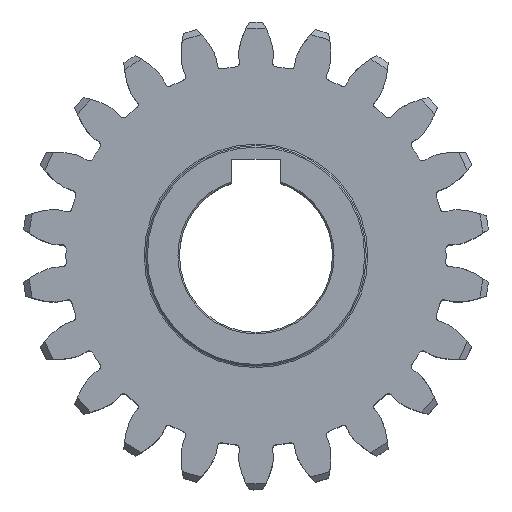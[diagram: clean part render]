
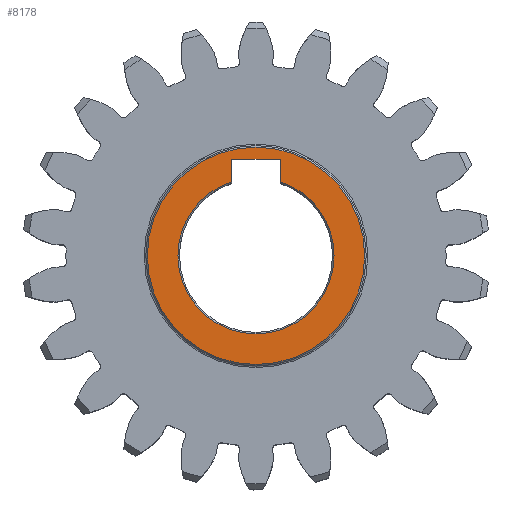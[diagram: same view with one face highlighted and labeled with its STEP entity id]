
A CAD part, top view. The second image highlights one B-rep face of the part: STEP entity #8178.
In plain terms, the highlighted planar face has unit normal (0, 0, 1).
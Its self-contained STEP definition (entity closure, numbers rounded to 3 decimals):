
#73 = CARTESIAN_POINT ( 'NONE',  ( -12.75, 0., 15. ) ) ;
#140 = DIRECTION ( 'NONE',  ( 1., 0., 0. ) ) ;
#264 = DIRECTION ( 'NONE',  ( 0., -1., 0. ) ) ;
#293 = DIRECTION ( 'NONE',  ( 1., 0., 0. ) ) ;
#640 = VERTEX_POINT ( 'NONE', #11467 ) ;
#970 = CARTESIAN_POINT ( 'NONE',  ( 0., 0., 15. ) ) ;
#1374 = ORIENTED_EDGE ( 'NONE', *, *, #2844, .T. ) ;
#1428 = AXIS2_PLACEMENT_3D ( 'NONE', #9973, #12120, #4343 ) ;
#1974 = CARTESIAN_POINT ( 'NONE',  ( 4., 12.106, 15. ) ) ;
#2105 = AXIS2_PLACEMENT_3D ( 'NONE', #7072, #11582, #8337 ) ;
#2208 = EDGE_CURVE ( 'NONE', #13661, #7519, #14126, .T. ) ;
#2535 = CARTESIAN_POINT ( 'NONE',  ( -4., 15.8, 15. ) ) ;
#2586 = CIRCLE ( 'NONE', #12980, 12.75 ) ;
#2627 = DIRECTION ( 'NONE',  ( 1., 0., 0. ) ) ;
#2681 = EDGE_CURVE ( 'NONE', #4782, #640, #6150, .T. ) ;
#2844 = EDGE_CURVE ( 'NONE', #6687, #13661, #5062, .T. ) ;
#2847 = EDGE_CURVE ( 'NONE', #13640, #3538, #8047, .T. ) ;
#3446 = EDGE_CURVE ( 'NONE', #3538, #13640, #8521, .T. ) ;
#3538 = VERTEX_POINT ( 'NONE', #4267 ) ;
#3664 = LINE ( 'NONE', #13802, #12665 ) ;
#3668 = CIRCLE ( 'NONE', #14306, 12.75 ) ;
#3692 = DIRECTION ( 'NONE',  ( 0., 0., -1. ) ) ;
#3845 = CARTESIAN_POINT ( 'NONE',  ( 4., 15.8, 15. ) ) ;
#4267 = CARTESIAN_POINT ( 'NONE',  ( 17.75, 0., 15. ) ) ;
#4343 = DIRECTION ( 'NONE',  ( 1., 0., 0. ) ) ;
#4396 = DIRECTION ( 'NONE',  ( 0., 0., -1. ) ) ;
#4503 = VECTOR ( 'NONE', #14232, 1000. ) ;
#4782 = VERTEX_POINT ( 'NONE', #1974 ) ;
#4783 = ORIENTED_EDGE ( 'NONE', *, *, #6470, .T. ) ;
#5062 = LINE ( 'NONE', #14016, #4503 ) ;
#5069 = FACE_BOUND ( 'NONE', #12194, .T. ) ;
#5341 = CARTESIAN_POINT ( 'NONE',  ( 4., 15.8, 15. ) ) ;
#5936 = ORIENTED_EDGE ( 'NONE', *, *, #2681, .T. ) ;
#6130 = EDGE_CURVE ( 'NONE', #9450, #6687, #3668, .T. ) ;
#6150 = CIRCLE ( 'NONE', #8742, 12.75 ) ;
#6470 = EDGE_CURVE ( 'NONE', #7519, #4782, #3664, .T. ) ;
#6585 = CARTESIAN_POINT ( 'NONE',  ( -4., 12.106, 15. ) ) ;
#6687 = VERTEX_POINT ( 'NONE', #6585 ) ;
#6825 = ORIENTED_EDGE ( 'NONE', *, *, #2847, .T. ) ;
#6842 = DIRECTION ( 'NONE',  ( 1., 0., 0. ) ) ;
#7072 = CARTESIAN_POINT ( 'NONE',  ( 0., 0., 15. ) ) ;
#7382 = EDGE_LOOP ( 'NONE', ( #6825, #13588 ) ) ;
#7519 = VERTEX_POINT ( 'NONE', #5341 ) ;
#8047 = CIRCLE ( 'NONE', #13709, 17.75 ) ;
#8178 = ADVANCED_FACE ( 'NONE', ( #10553, #5069 ), #11505, .T. ) ;
#8220 = CARTESIAN_POINT ( 'NONE',  ( 0., 0., 15. ) ) ;
#8337 = DIRECTION ( 'NONE',  ( 1., 0., 0. ) ) ;
#8521 = CIRCLE ( 'NONE', #1428, 17.75 ) ;
#8742 = AXIS2_PLACEMENT_3D ( 'NONE', #8220, #3692, #9322 ) ;
#9322 = DIRECTION ( 'NONE',  ( 1., 0., 0. ) ) ;
#9450 = VERTEX_POINT ( 'NONE', #73 ) ;
#9973 = CARTESIAN_POINT ( 'NONE',  ( 0., 0., 15. ) ) ;
#10005 = DIRECTION ( 'NONE',  ( 0., 0., -1. ) ) ;
#10553 = FACE_OUTER_BOUND ( 'NONE', #7382, .T. ) ;
#10762 = DIRECTION ( 'NONE',  ( 0., 0., 1. ) ) ;
#10905 = ORIENTED_EDGE ( 'NONE', *, *, #2208, .T. ) ;
#11467 = CARTESIAN_POINT ( 'NONE',  ( 12.75, 0., 15. ) ) ;
#11505 = PLANE ( 'NONE',  #2105 ) ;
#11582 = DIRECTION ( 'NONE',  ( 0., 0., 1. ) ) ;
#12008 = EDGE_CURVE ( 'NONE', #640, #9450, #2586, .T. ) ;
#12120 = DIRECTION ( 'NONE',  ( 0., 0., 1. ) ) ;
#12194 = EDGE_LOOP ( 'NONE', ( #4783, #5936, #13077, #13340, #1374, #10905 ) ) ;
#12457 = CARTESIAN_POINT ( 'NONE',  ( 0., 0., 15. ) ) ;
#12665 = VECTOR ( 'NONE', #264, 1000. ) ;
#12976 = CARTESIAN_POINT ( 'NONE',  ( 0., 0., 15. ) ) ;
#12980 = AXIS2_PLACEMENT_3D ( 'NONE', #12457, #4396, #6842 ) ;
#13077 = ORIENTED_EDGE ( 'NONE', *, *, #12008, .T. ) ;
#13340 = ORIENTED_EDGE ( 'NONE', *, *, #6130, .T. ) ;
#13411 = VECTOR ( 'NONE', #293, 1000. ) ;
#13588 = ORIENTED_EDGE ( 'NONE', *, *, #3446, .T. ) ;
#13632 = CARTESIAN_POINT ( 'NONE',  ( -17.75, 0., 15. ) ) ;
#13640 = VERTEX_POINT ( 'NONE', #13632 ) ;
#13661 = VERTEX_POINT ( 'NONE', #2535 ) ;
#13709 = AXIS2_PLACEMENT_3D ( 'NONE', #12976, #10762, #2627 ) ;
#13802 = CARTESIAN_POINT ( 'NONE',  ( 4., 9.2, 15. ) ) ;
#14016 = CARTESIAN_POINT ( 'NONE',  ( -4., 9.2, 15. ) ) ;
#14126 = LINE ( 'NONE', #3845, #13411 ) ;
#14232 = DIRECTION ( 'NONE',  ( 0., 1., 0. ) ) ;
#14306 = AXIS2_PLACEMENT_3D ( 'NONE', #970, #10005, #140 ) ;
